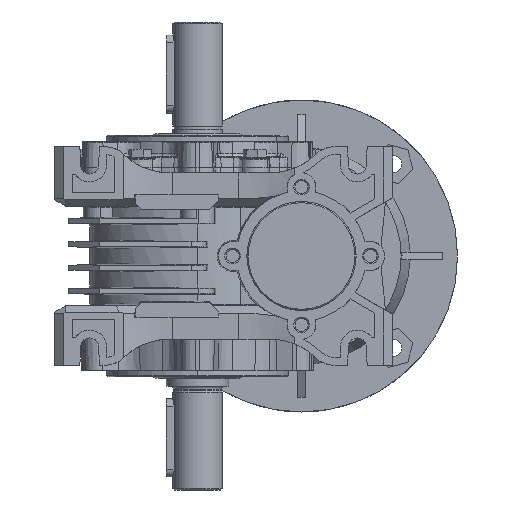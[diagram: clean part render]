
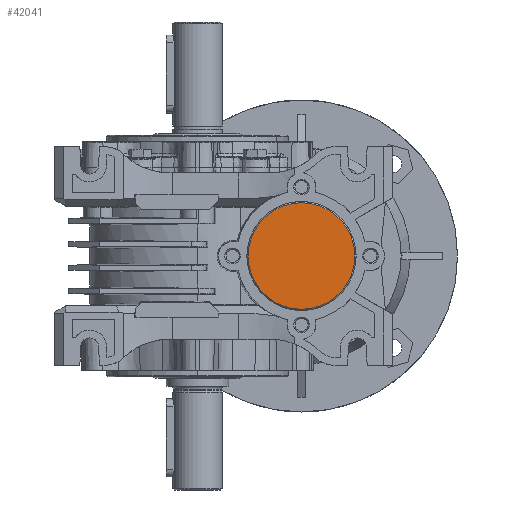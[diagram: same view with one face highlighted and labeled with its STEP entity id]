
A CAD part, left-side view. The second image highlights one B-rep face of the part: STEP entity #42041.
In plain terms, the highlighted planar face has unit normal (-1, 0, 0).
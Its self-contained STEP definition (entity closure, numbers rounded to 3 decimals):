
#109 = CIRCLE ( 'NONE', #1611, 20.5 ) ;
#1611 = AXIS2_PLACEMENT_3D ( 'NONE', #27006, #64247, #93048 ) ;
#7970 = CARTESIAN_POINT ( 'NONE',  ( -55., -40., 0. ) ) ;
#8019 = DIRECTION ( 'NONE',  ( -1., 0., 0. ) ) ;
#21531 = CARTESIAN_POINT ( 'NONE',  ( -55., -40., 20.5 ) ) ;
#24637 = EDGE_LOOP ( 'NONE', ( #78042, #72147 ) ) ;
#24717 = AXIS2_PLACEMENT_3D ( 'NONE', #7970, #64134, #27810 ) ;
#27006 = CARTESIAN_POINT ( 'NONE',  ( -55., -40., 0. ) ) ;
#27810 = DIRECTION ( 'NONE',  ( 0., 0., -1. ) ) ;
#35835 = FACE_OUTER_BOUND ( 'NONE', #24637, .T. ) ;
#36812 = DIRECTION ( 'NONE',  ( 0., 0., -1. ) ) ;
#41780 = CARTESIAN_POINT ( 'NONE',  ( -55., -40., -20.5 ) ) ;
#42041 = ADVANCED_FACE ( 'NONE', ( #35835 ), #57987, .F. ) ;
#44721 = EDGE_CURVE ( 'NONE', #72740, #64482, #85660, .T. ) ;
#57987 = PLANE ( 'NONE',  #24717 ) ;
#64134 = DIRECTION ( 'NONE',  ( 1., 0., 0. ) ) ;
#64247 = DIRECTION ( 'NONE',  ( -1., 0., 0. ) ) ;
#64482 = VERTEX_POINT ( 'NONE', #41780 ) ;
#72147 = ORIENTED_EDGE ( 'NONE', *, *, #44721, .T. ) ;
#72740 = VERTEX_POINT ( 'NONE', #21531 ) ;
#78042 = ORIENTED_EDGE ( 'NONE', *, *, #80673, .T. ) ;
#79752 = CARTESIAN_POINT ( 'NONE',  ( -55., -40., 0. ) ) ;
#80673 = EDGE_CURVE ( 'NONE', #64482, #72740, #109, .T. ) ;
#84125 = AXIS2_PLACEMENT_3D ( 'NONE', #79752, #8019, #36812 ) ;
#85660 = CIRCLE ( 'NONE', #84125, 20.5 ) ;
#93048 = DIRECTION ( 'NONE',  ( 0., 0., -1. ) ) ;
